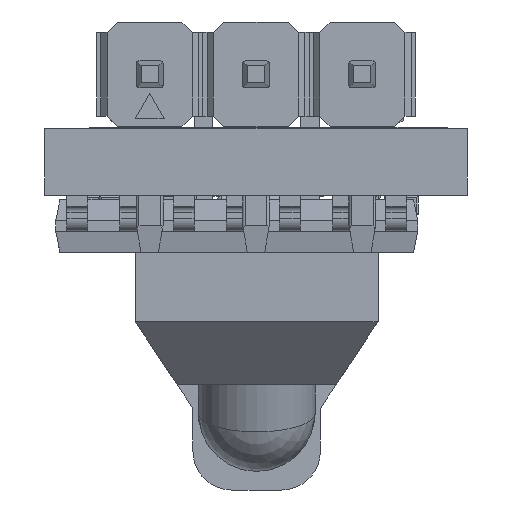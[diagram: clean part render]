
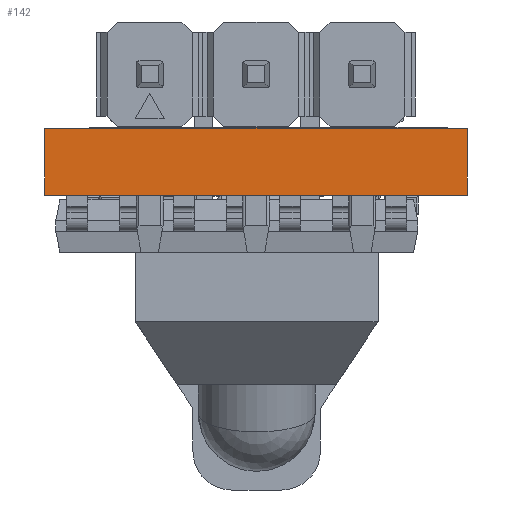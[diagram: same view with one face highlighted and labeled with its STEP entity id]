
A CAD part, left-side view. The second image highlights one B-rep face of the part: STEP entity #142.
In plain terms, the highlighted planar face has unit normal (-1, 0, 0).
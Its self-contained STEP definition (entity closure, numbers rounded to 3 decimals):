
#86 = VERTEX_POINT('',#87);
#87 = CARTESIAN_POINT('',(0.,0.,-1.6));
#93 = EDGE_CURVE('',#94,#86,#96,.T.);
#94 = VERTEX_POINT('',#95);
#95 = CARTESIAN_POINT('',(0.,0.,0.));
#96 = LINE('',#97,#98);
#97 = CARTESIAN_POINT('',(0.,0.,0.));
#98 = VECTOR('',#99,1.);
#99 = DIRECTION('',(-0.,-0.,-1.));
#142 = ADVANCED_FACE('',(#143),#168,.F.);
#143 = FACE_BOUND('',#144,.F.);
#144 = EDGE_LOOP('',(#145,#146,#154,#162));
#145 = ORIENTED_EDGE('',*,*,#93,.T.);
#146 = ORIENTED_EDGE('',*,*,#147,.T.);
#147 = EDGE_CURVE('',#86,#148,#150,.T.);
#148 = VERTEX_POINT('',#149);
#149 = CARTESIAN_POINT('',(0.,10.1,-1.6));
#150 = LINE('',#151,#152);
#151 = CARTESIAN_POINT('',(0.,0.,-1.6));
#152 = VECTOR('',#153,1.);
#153 = DIRECTION('',(0.,1.,0.));
#154 = ORIENTED_EDGE('',*,*,#155,.F.);
#155 = EDGE_CURVE('',#156,#148,#158,.T.);
#156 = VERTEX_POINT('',#157);
#157 = CARTESIAN_POINT('',(0.,10.1,0.));
#158 = LINE('',#159,#160);
#159 = CARTESIAN_POINT('',(0.,10.1,0.));
#160 = VECTOR('',#161,1.);
#161 = DIRECTION('',(-0.,-0.,-1.));
#162 = ORIENTED_EDGE('',*,*,#163,.F.);
#163 = EDGE_CURVE('',#94,#156,#164,.T.);
#164 = LINE('',#165,#166);
#165 = CARTESIAN_POINT('',(0.,0.,0.));
#166 = VECTOR('',#167,1.);
#167 = DIRECTION('',(0.,1.,0.));
#168 = PLANE('',#169);
#169 = AXIS2_PLACEMENT_3D('',#170,#171,#172);
#170 = CARTESIAN_POINT('',(0.,0.,0.));
#171 = DIRECTION('',(1.,0.,0.));
#172 = DIRECTION('',(0.,1.,0.));
